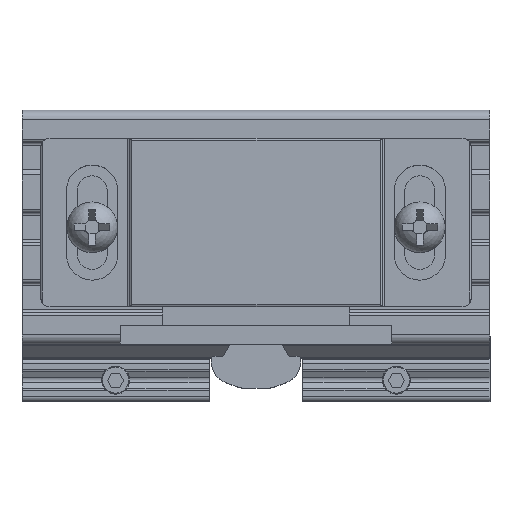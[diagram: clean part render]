
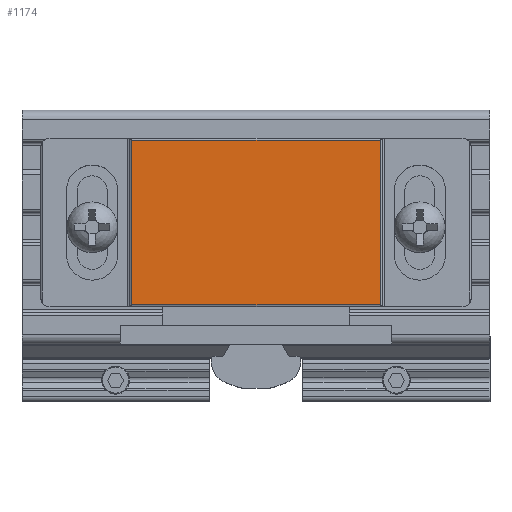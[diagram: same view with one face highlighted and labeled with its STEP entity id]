
A CAD part, top view. The second image highlights one B-rep face of the part: STEP entity #1174.
In plain terms, the highlighted planar face has unit normal (0, 0, 1) as drawn and (0, 1, 0) by its records, which use the part's own axes.
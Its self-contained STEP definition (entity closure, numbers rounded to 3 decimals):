
#1174=ADVANCED_FACE('',(#2210),#2211,.F.);
#2210=FACE_OUTER_BOUND('',#3198,.T.);
#2211=PLANE('',#3199);
#3198=EDGE_LOOP('',(#5840,#5841,#5842,#5843));
#3199=AXIS2_PLACEMENT_3D('',#5844,#5845,#5846);
#5840=ORIENTED_EDGE('',*,*,#7164,.T.);
#5841=ORIENTED_EDGE('',*,*,#7176,.T.);
#5842=ORIENTED_EDGE('',*,*,#6158,.F.);
#5843=ORIENTED_EDGE('',*,*,#6966,.F.);
#5844=CARTESIAN_POINT('',(36.3,13.0,20.0));
#5845=DIRECTION('',(0.0,-1.0,0.0));
#5846=DIRECTION('',(0.0,0.0,-1.0));
#6158=EDGE_CURVE('',#7346,#7347,#7348,.T.);
#6966=EDGE_CURVE('',#8617,#7346,#8619,.T.);
#7164=EDGE_CURVE('',#8617,#8847,#8849,.T.);
#7176=EDGE_CURVE('',#8847,#7347,#8861,.T.);
#7346=VERTEX_POINT('',#9014);
#7347=VERTEX_POINT('',#9015);
#7348=LINE('',#9016,#9017);
#8617=VERTEX_POINT('',#10853);
#8619=LINE('',#10855,#10856);
#8847=VERTEX_POINT('',#11176);
#8849=LINE('',#11178,#11179);
#8861=LINE('',#11194,#11195);
#9014=CARTESIAN_POINT('',(9.7,13.,17.8));
#9015=CARTESIAN_POINT('',(9.7,13.,0.2));
#9016=CARTESIAN_POINT('',(9.7,13.0,20.0));
#9017=VECTOR('',#11310,1.0);
#10853=CARTESIAN_POINT('',(36.3,13.,17.8));
#10855=CARTESIAN_POINT('',(46.0,13.,17.8));
#10856=VECTOR('',#12266,1.0);
#11176=CARTESIAN_POINT('',(36.3,13.,0.2));
#11178=CARTESIAN_POINT('',(36.3,13.0,20.0));
#11179=VECTOR('',#12458,1.0);
#11194=CARTESIAN_POINT('',(46.0,13.,0.2));
#11195=VECTOR('',#12462,1.0);
#11310=DIRECTION('',(0.0,0.0,-1.0));
#12266=DIRECTION('',(-1.0,0.0,0.0));
#12458=DIRECTION('',(0.0,0.0,-1.0));
#12462=DIRECTION('',(-1.0,0.0,0.0));
